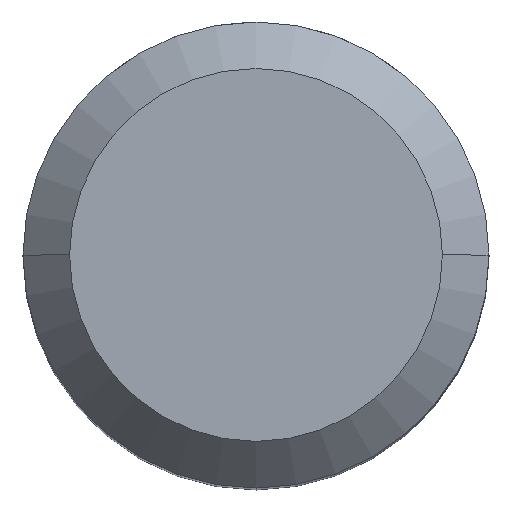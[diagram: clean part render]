
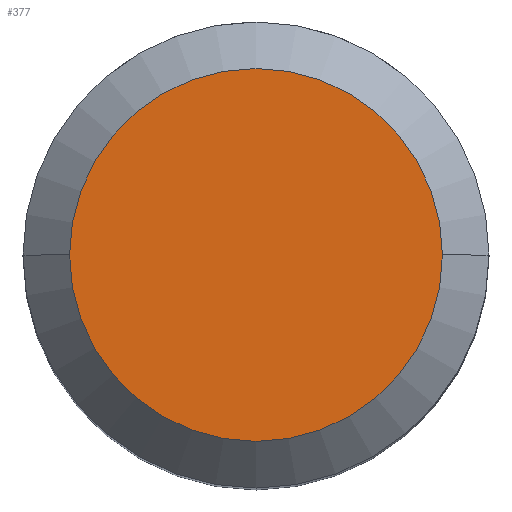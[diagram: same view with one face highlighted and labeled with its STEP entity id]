
A CAD part, top view. The second image highlights one B-rep face of the part: STEP entity #377.
In plain terms, the highlighted planar face has unit normal (0, 0, 1).
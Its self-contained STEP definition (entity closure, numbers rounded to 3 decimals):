
#21 = DIRECTION ( 'NONE',  ( -1., 0., 0. ) ) ;
#46 = ORIENTED_EDGE ( 'NONE', *, *, #259, .F. ) ;
#57 = ORIENTED_EDGE ( 'NONE', *, *, #309, .F. ) ;
#84 = AXIS2_PLACEMENT_3D ( 'NONE', #515, #277, #619 ) ;
#104 = CIRCLE ( 'NONE', #273, 8. ) ;
#115 = CARTESIAN_POINT ( 'NONE',  ( 0., 0., 0. ) ) ;
#165 = EDGE_LOOP ( 'NONE', ( #46, #57 ) ) ;
#255 = AXIS2_PLACEMENT_3D ( 'NONE', #115, #410, #414 ) ;
#259 = EDGE_CURVE ( 'NONE', #432, #591, #320, .T. ) ;
#273 = AXIS2_PLACEMENT_3D ( 'NONE', #352, #458, #21 ) ;
#277 = DIRECTION ( 'NONE',  ( 0., 0., 1. ) ) ;
#309 = EDGE_CURVE ( 'NONE', #591, #432, #104, .T. ) ;
#320 = CIRCLE ( 'NONE', #255, 8. ) ;
#324 = CARTESIAN_POINT ( 'NONE',  ( -8., 0., 0. ) ) ;
#352 = CARTESIAN_POINT ( 'NONE',  ( 0., 0., 0. ) ) ;
#354 = CARTESIAN_POINT ( 'NONE',  ( 8., 0., 0. ) ) ;
#377 = ADVANCED_FACE ( 'NONE', ( #512 ), #607, .T. ) ;
#410 = DIRECTION ( 'NONE',  ( 0., 0., -1. ) ) ;
#414 = DIRECTION ( 'NONE',  ( -1., 0., 0. ) ) ;
#432 = VERTEX_POINT ( 'NONE', #324 ) ;
#458 = DIRECTION ( 'NONE',  ( 0., 0., -1. ) ) ;
#512 = FACE_OUTER_BOUND ( 'NONE', #165, .T. ) ;
#515 = CARTESIAN_POINT ( 'NONE',  ( 0., 8., 0. ) ) ;
#591 = VERTEX_POINT ( 'NONE', #354 ) ;
#607 = PLANE ( 'NONE',  #84 ) ;
#619 = DIRECTION ( 'NONE',  ( 1., 0., 0. ) ) ;
